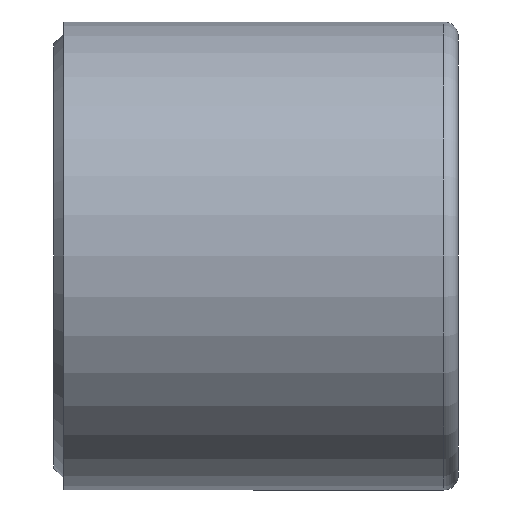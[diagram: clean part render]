
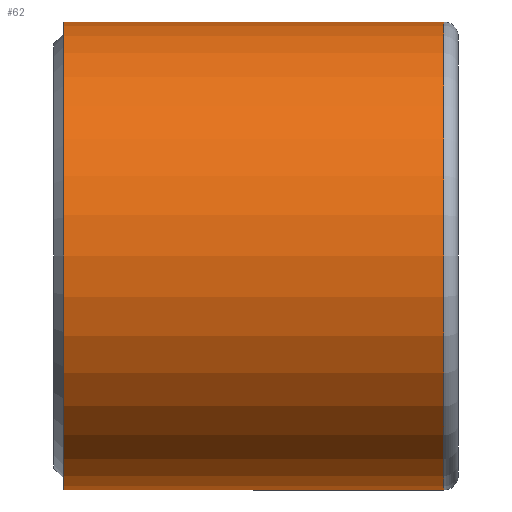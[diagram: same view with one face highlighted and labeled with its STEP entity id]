
A CAD part, front view. The second image highlights one B-rep face of the part: STEP entity #62.
In plain terms, the highlighted cylindrical face has radius 30.505 mm (diameter 61.011 mm), a partial arc.
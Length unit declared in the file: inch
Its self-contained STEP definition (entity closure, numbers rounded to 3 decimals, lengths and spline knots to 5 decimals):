
#62 = ADVANCED_FACE ( 'NONE', ( #615 ), #312, .T. ) ;
#79 = EDGE_CURVE ( 'NONE', #610, #383, #598, .T. ) ;
#80 = VECTOR ( 'NONE', #936, 39.37008 ) ;
#93 = CIRCLE ( 'NONE', #353, 1.201 ) ;
#106 = CARTESIAN_POINT ( 'NONE',  ( 0., 0., -1.201 ) ) ;
#212 = AXIS2_PLACEMENT_3D ( 'NONE', #220, #436, #810 ) ;
#220 = CARTESIAN_POINT ( 'NONE',  ( 0., 0., 0. ) ) ;
#236 = ORIENTED_EDGE ( 'NONE', *, *, #650, .F. ) ;
#257 = CARTESIAN_POINT ( 'NONE',  ( 2.00174, 0., -1.201 ) ) ;
#270 = LINE ( 'NONE', #106, #347 ) ;
#308 = ORIENTED_EDGE ( 'NONE', *, *, #783, .F. ) ;
#312 = CYLINDRICAL_SURFACE ( 'NONE', #212, 1.201 ) ;
#347 = VECTOR ( 'NONE', #848, 39.37008 ) ;
#353 = AXIS2_PLACEMENT_3D ( 'NONE', #646, #789, #416 ) ;
#383 = VERTEX_POINT ( 'NONE', #753 ) ;
#416 = DIRECTION ( 'NONE',  ( 0., 0., 1. ) ) ;
#436 = DIRECTION ( 'NONE',  ( -1., 0., 0. ) ) ;
#491 = CARTESIAN_POINT ( 'NONE',  ( 2.00174, 0., 0. ) ) ;
#496 = DIRECTION ( 'NONE',  ( 0., 0., 1. ) ) ;
#524 = CARTESIAN_POINT ( 'NONE',  ( 0.05074, 0., -1.201 ) ) ;
#529 = CARTESIAN_POINT ( 'NONE',  ( 0., 0., 1.201 ) ) ;
#544 = ORIENTED_EDGE ( 'NONE', *, *, #79, .T. ) ;
#598 = LINE ( 'NONE', #529, #80 ) ;
#610 = VERTEX_POINT ( 'NONE', #906 ) ;
#615 = FACE_OUTER_BOUND ( 'NONE', #746, .T. ) ;
#633 = DIRECTION ( 'NONE',  ( -1., 0., 0. ) ) ;
#646 = CARTESIAN_POINT ( 'NONE',  ( 0.05074, 0., 0. ) ) ;
#650 = EDGE_CURVE ( 'NONE', #682, #861, #270, .T. ) ;
#682 = VERTEX_POINT ( 'NONE', #257 ) ;
#689 = EDGE_CURVE ( 'NONE', #682, #610, #880, .T. ) ;
#746 = EDGE_LOOP ( 'NONE', ( #236, #820, #544, #308 ) ) ;
#753 = CARTESIAN_POINT ( 'NONE',  ( 0.05074, 0., 1.201 ) ) ;
#783 = EDGE_CURVE ( 'NONE', #861, #383, #93, .T. ) ;
#789 = DIRECTION ( 'NONE',  ( -1., 0., 0. ) ) ;
#810 = DIRECTION ( 'NONE',  ( 0., 0., 1. ) ) ;
#820 = ORIENTED_EDGE ( 'NONE', *, *, #689, .T. ) ;
#848 = DIRECTION ( 'NONE',  ( -1., 0., 0. ) ) ;
#861 = VERTEX_POINT ( 'NONE', #524 ) ;
#865 = AXIS2_PLACEMENT_3D ( 'NONE', #491, #633, #496 ) ;
#880 = CIRCLE ( 'NONE', #865, 1.201 ) ;
#906 = CARTESIAN_POINT ( 'NONE',  ( 2.00174, 0., 1.201 ) ) ;
#936 = DIRECTION ( 'NONE',  ( -1., 0., 0. ) ) ;
